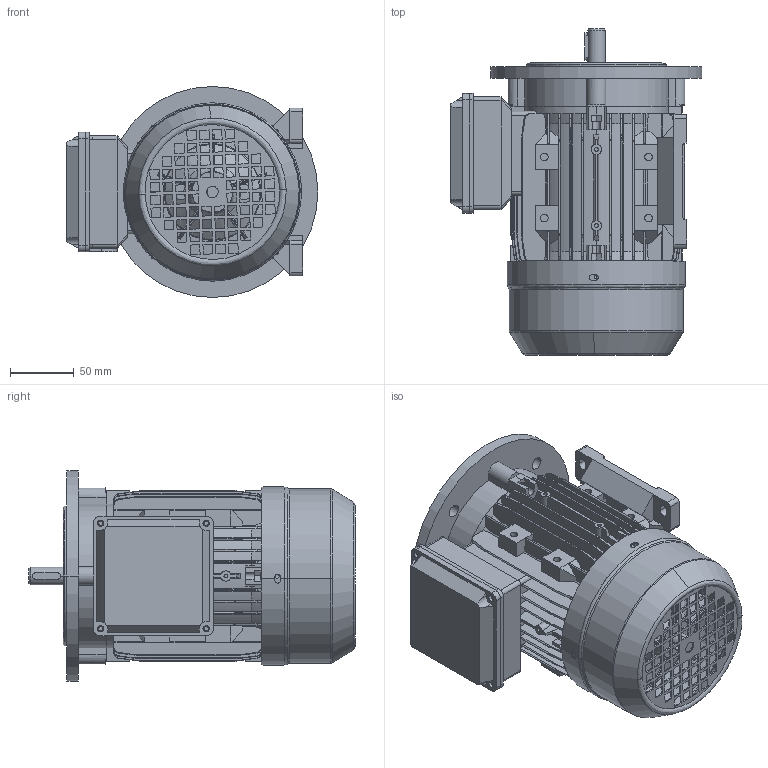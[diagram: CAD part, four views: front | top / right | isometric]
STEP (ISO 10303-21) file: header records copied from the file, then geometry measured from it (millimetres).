
FILE_DESCRIPTION (( 'STEP AP214' ), '1' );
FILE_NAME ('MX71_B35.STEP', '2019-06-14T09:47:08', ( '' ), ( '' ), 'SwSTEP 2.0', 'SolidWorks 2012', '' );
FILE_SCHEMA (( 'AUTOMOTIVE_DESIGN' ));
Length unit declared in the file: millimetre
Products named in the file (9): Lüfterhaube_MS71; L黤terfl黦el_MS71; Fuss_MS71; Klemmkastenoberteil_MS71; Klemmenkastenunterteil_MS71; B5-Flansch_MS71; B-Lagerschild_MS71; Gehäuse_MS71L; MX71_B35
Assembly tree (9 placements, depth 2):
  MX71_B35
    Gehäuse_MS71L
    B-Lagerschild_MS71
    B5-Flansch_MS71
    Klemmenkastenunterteil_MS71
    Klemmkastenoberteil_MS71
    Fuss_MS71  x2
    L黤terfl黦el_MS71
    Lüfterhaube_MS71
Bounding box: 197.91 x 256.71 x 165.81 mm (x, y, z)
Volume: 812806.3 mm3; surface area: 510469 mm2
Topology: 9 solids, 9 shells, 1965 faces, 5410 edges, 3530 vertices
Faces by surface type: plane 1086, cylinder 577, cone 168, bspline 134
Entity records: 68975 total; most frequent: CARTESIAN_POINT 21797, ORIENTED_EDGE 10352, DIRECTION 8987, EDGE_CURVE 5176, VERTEX_POINT 3376, AXIS2_PLACEMENT_3D 3030, LINE 2927, VECTOR 2927
